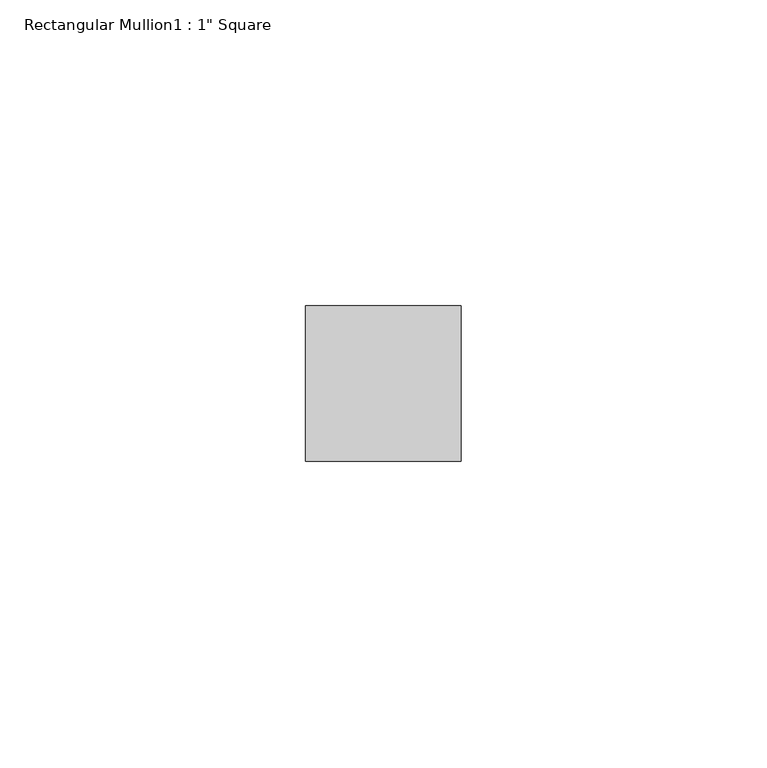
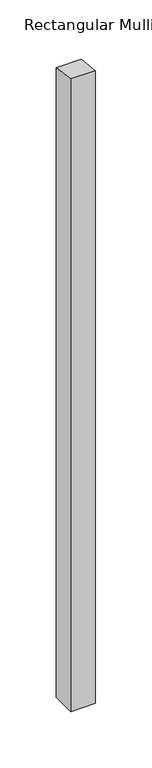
"""IFC4 building model written with IfcOpenShell, lengths in millimetres: member geometry."""

from ifc_helpers import new_model, si_unit, frame, origin, place, context, project, spatial, polyline, outline, extrude, source, transform, mapped, element, save


def member_e06bcec6(model_context):
    return source(origin(), model_context, "Body", "SweptSolid", [
        extrude(outline(polyline([(-44.45, 5.6588474), (-19.05, 2.4252203), (-19.05, -680.0402655), (-44.45, -680.0402655), (-44.45, 5.6588474)])), frame((-25.4, 0.0, 0.0), z_axis=(1.0, 0.0, 0.0), x_axis=(0.0, 1.0, 0.0)), (0.0, 0.0, 1.0), 25.4),
    ])


if __name__ == "__main__":
    model = new_model("IFC4")
    model_context = context("Model", 3, world=origin())
    ifc_project = project(units=[si_unit("LENGTHUNIT", "METRE", prefix="MILLI")], contexts=[model_context])
    site = spatial("IfcSite", under=ifc_project)
    building = spatial("IfcBuilding", under=site)
    placement = place(None, origin())
    member_shape = member_e06bcec6(model_context)
    element("IfcMember", 1, ObjectType="Rectangular Mullion1 : 1\" Square", at=placement, inside=building, context=model_context, shape_type="MappedRepresentation", body=[
        mapped(member_shape, transform((0.0, 0.0, 0.0), x_axis=(1.0, 0.0, 0.0), y_axis=(0.0, 1.0, 0.0), z_axis=(0.0, 0.0, 1.0))),
    ])
    save(model, "model.ifc")
